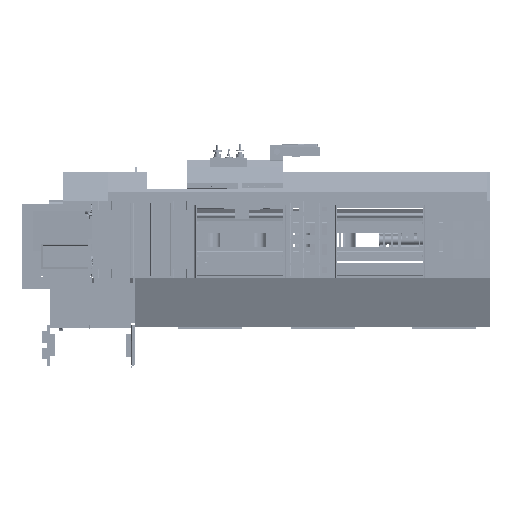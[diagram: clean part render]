
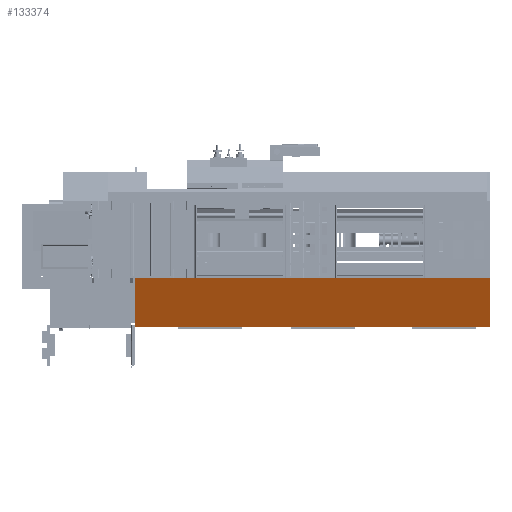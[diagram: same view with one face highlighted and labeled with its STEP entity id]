
A CAD part, front view. The second image highlights one B-rep face of the part: STEP entity #133374.
In plain terms, the highlighted planar face has unit normal (0, -0.912, -0.411).
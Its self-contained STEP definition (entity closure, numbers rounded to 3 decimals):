
#6406 = LINE ( 'NONE', #123804, #226101 ) ;
#11404 = CARTESIAN_POINT ( 'NONE',  ( 17.717, 1.575, -6.133 ) ) ;
#14964 = LINE ( 'NONE', #132371, #243398 ) ;
#17214 = VECTOR ( 'NONE', #184941, 39.37 ) ;
#21214 = DIRECTION ( 'NONE',  ( 0., -0.411, 0.912 ) ) ;
#39119 = CARTESIAN_POINT ( 'NONE',  ( 17.717, 11.378, -27.905 ) ) ;
#50093 = PLANE ( 'NONE',  #301089 ) ;
#64728 = ORIENTED_EDGE ( 'NONE', *, *, #337126, .F. ) ;
#67521 = CARTESIAN_POINT ( 'NONE',  ( 177.165, 1.575, -6.133 ) ) ;
#75450 = VECTOR ( 'NONE', #96771, 39.37 ) ;
#77213 = CARTESIAN_POINT ( 'NONE',  ( 177.165, 11.378, -27.905 ) ) ;
#92795 = VERTEX_POINT ( 'NONE', #11404 ) ;
#96771 = DIRECTION ( 'NONE',  ( -1., 0., 0. ) ) ;
#123804 = CARTESIAN_POINT ( 'NONE',  ( 17.717, 11.378, -27.905 ) ) ;
#132371 = CARTESIAN_POINT ( 'NONE',  ( 177.165, 11.378, -27.905 ) ) ;
#133374 = ADVANCED_FACE ( 'NONE', ( #313694 ), #50093, .T. ) ;
#167490 = CARTESIAN_POINT ( 'NONE',  ( 177.165, 1.575, -6.133 ) ) ;
#184941 = DIRECTION ( 'NONE',  ( -1., 0., 0. ) ) ;
#203336 = CARTESIAN_POINT ( 'NONE',  ( 177.165, 1.575, -6.133 ) ) ;
#218113 = EDGE_CURVE ( 'NONE', #359258, #314228, #14964, .T. ) ;
#221738 = EDGE_CURVE ( 'NONE', #320981, #92795, #6406, .T. ) ;
#226101 = VECTOR ( 'NONE', #241180, 39.37 ) ;
#241180 = DIRECTION ( 'NONE',  ( 0., -0.411, 0.912 ) ) ;
#243059 = LINE ( 'NONE', #360476, #75450 ) ;
#243398 = VECTOR ( 'NONE', #249739, 39.37 ) ;
#249739 = DIRECTION ( 'NONE',  ( 0., -0.411, 0.912 ) ) ;
#263005 = EDGE_CURVE ( 'NONE', #314228, #92795, #331190, .T. ) ;
#284823 = DIRECTION ( 'NONE',  ( 0., -0.912, -0.411 ) ) ;
#285355 = EDGE_LOOP ( 'NONE', ( #320775, #317831, #64728, #374473 ) ) ;
#301089 = AXIS2_PLACEMENT_3D ( 'NONE', #167490, #284823, #21214 ) ;
#313694 = FACE_OUTER_BOUND ( 'NONE', #285355, .T. ) ;
#314228 = VERTEX_POINT ( 'NONE', #203336 ) ;
#317831 = ORIENTED_EDGE ( 'NONE', *, *, #221738, .F. ) ;
#320775 = ORIENTED_EDGE ( 'NONE', *, *, #263005, .T. ) ;
#320981 = VERTEX_POINT ( 'NONE', #39119 ) ;
#331190 = LINE ( 'NONE', #67521, #17214 ) ;
#337126 = EDGE_CURVE ( 'NONE', #359258, #320981, #243059, .T. ) ;
#359258 = VERTEX_POINT ( 'NONE', #77213 ) ;
#360476 = CARTESIAN_POINT ( 'NONE',  ( 177.165, 11.378, -27.905 ) ) ;
#374473 = ORIENTED_EDGE ( 'NONE', *, *, #218113, .T. ) ;
